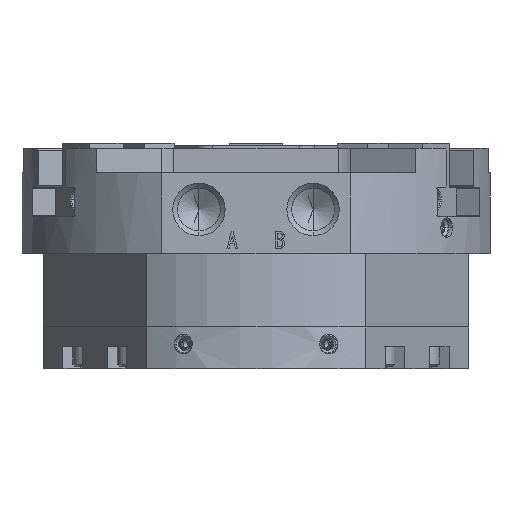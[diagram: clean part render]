
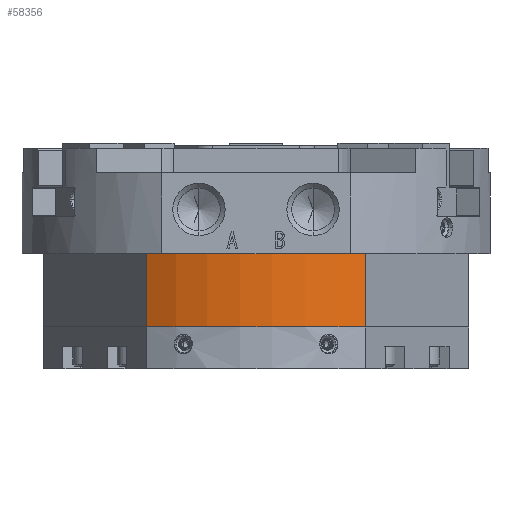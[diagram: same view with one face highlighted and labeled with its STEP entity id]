
A CAD part, front view. The second image highlights one B-rep face of the part: STEP entity #58356.
In plain terms, the highlighted cylindrical face has radius 43.5 mm (diameter 87 mm), a partial arc.
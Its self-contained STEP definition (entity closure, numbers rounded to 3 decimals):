
#3855 = VERTEX_POINT ( 'NONE', #68966 ) ;
#5120 = AXIS2_PLACEMENT_3D ( 'NONE', #30742, #23668, #47374 ) ;
#5773 = AXIS2_PLACEMENT_3D ( 'NONE', #23488, #6070, #46126 ) ;
#6070 = DIRECTION ( 'NONE',  ( 0., 0., 1. ) ) ;
#7744 = ORIENTED_EDGE ( 'NONE', *, *, #48318, .F. ) ;
#13385 = DIRECTION ( 'NONE',  ( 1., 0., 0. ) ) ;
#16671 = ORIENTED_EDGE ( 'NONE', *, *, #53287, .F. ) ;
#19340 = DIRECTION ( 'NONE',  ( 0., 0., 1. ) ) ;
#21418 = EDGE_LOOP ( 'NONE', ( #16671, #28816, #7744, #49489 ) ) ;
#23488 = CARTESIAN_POINT ( 'NONE',  ( 0., 0., 114.778 ) ) ;
#23668 = DIRECTION ( 'NONE',  ( 0., 0., 1. ) ) ;
#27148 = CARTESIAN_POINT ( 'NONE',  ( -22.323, -37.335, -21.5 ) ) ;
#28816 = ORIENTED_EDGE ( 'NONE', *, *, #45959, .T. ) ;
#29258 = CARTESIAN_POINT ( 'NONE',  ( 22.323, -37.335, 114.778 ) ) ;
#29434 = CARTESIAN_POINT ( 'NONE',  ( 0., 0., -21.5 ) ) ;
#30742 = CARTESIAN_POINT ( 'NONE',  ( 0., 0., -36.5 ) ) ;
#31443 = VERTEX_POINT ( 'NONE', #69040 ) ;
#32857 = CARTESIAN_POINT ( 'NONE',  ( -22.323, -37.335, -36.5 ) ) ;
#33684 = DIRECTION ( 'NONE',  ( 0., 0., -1. ) ) ;
#34167 = DIRECTION ( 'NONE',  ( 0., 0., 1. ) ) ;
#39688 = CARTESIAN_POINT ( 'NONE',  ( -22.323, -37.335, 114.778 ) ) ;
#40691 = LINE ( 'NONE', #29258, #57525 ) ;
#45924 = CIRCLE ( 'NONE', #56516, 43.5 ) ;
#45959 = EDGE_CURVE ( 'NONE', #57543, #31443, #47738, .T. ) ;
#46126 = DIRECTION ( 'NONE',  ( 1., 0., 0. ) ) ;
#47374 = DIRECTION ( 'NONE',  ( 1., 0., 0. ) ) ;
#47738 = CIRCLE ( 'NONE', #5120, 43.5 ) ;
#48318 = EDGE_CURVE ( 'NONE', #3855, #31443, #40691, .T. ) ;
#49489 = ORIENTED_EDGE ( 'NONE', *, *, #65551, .F. ) ;
#53287 = EDGE_CURVE ( 'NONE', #57543, #69948, #72740, .T. ) ;
#56516 = AXIS2_PLACEMENT_3D ( 'NONE', #29434, #19340, #13385 ) ;
#56863 = CYLINDRICAL_SURFACE ( 'NONE', #5773, 43.5 ) ;
#57525 = VECTOR ( 'NONE', #33684, 1000. ) ;
#57543 = VERTEX_POINT ( 'NONE', #32857 ) ;
#58356 = ADVANCED_FACE ( 'NONE', ( #62449 ), #56863, .T. ) ;
#59645 = VECTOR ( 'NONE', #34167, 1000. ) ;
#62449 = FACE_OUTER_BOUND ( 'NONE', #21418, .T. ) ;
#65551 = EDGE_CURVE ( 'NONE', #69948, #3855, #45924, .T. ) ;
#68966 = CARTESIAN_POINT ( 'NONE',  ( 22.323, -37.335, -21.5 ) ) ;
#69040 = CARTESIAN_POINT ( 'NONE',  ( 22.323, -37.335, -36.5 ) ) ;
#69948 = VERTEX_POINT ( 'NONE', #27148 ) ;
#72740 = LINE ( 'NONE', #39688, #59645 ) ;
